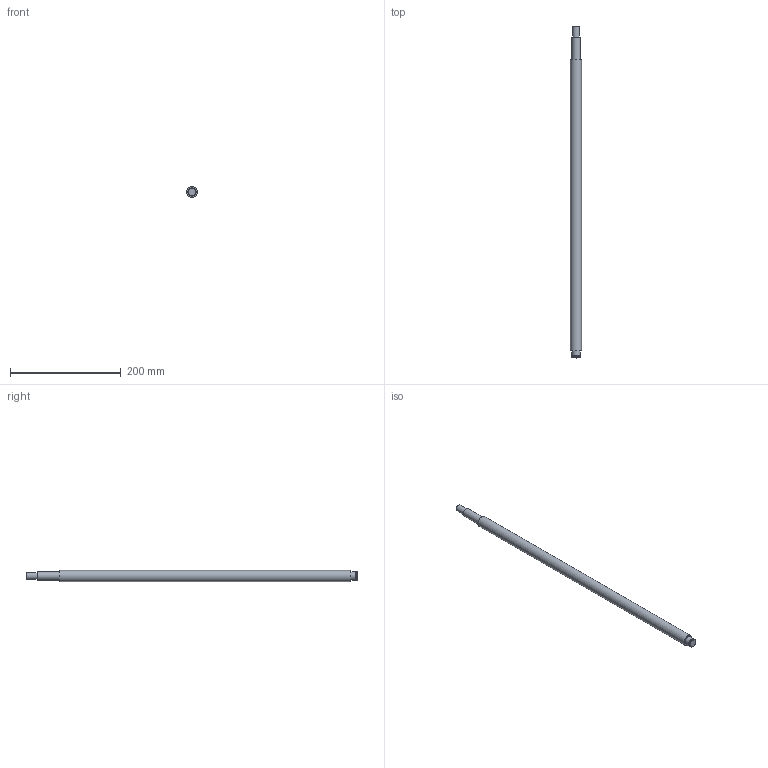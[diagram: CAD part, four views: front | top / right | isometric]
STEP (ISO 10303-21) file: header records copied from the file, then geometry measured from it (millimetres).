
FILE_DESCRIPTION(/* description */ (''),/* implementation_level */ '2;1');
FILE_NAME(/* name */ 'C:\Users\David\Desktop\stepFiles\Profilfuehrung\KUS2010x600.stp',/* time_stamp */ '2018-06-24T15:12:48+02:00',/* author */ ('David'),/* organization */ (''),/* preprocessor_version */ 'ST-DEVELOPER v17',/* originating_system */ 'Autodesk Inventor 2019',/* authorisation */ '');
FILE_SCHEMA (('AUTOMOTIVE_DESIGN { 1 0 10303 214 3 1 1 }'));
Length unit declared in the file: millimetre
Products named in the file (1): SFU2005xvaiabel
Bounding box: 20 x 600 x 20 mm (x, y, z)
Volume: 177160.9 mm3; surface area: 36996.4 mm2
Topology: 1 solids, 1 shells, 15 faces, 34 edges, 26 vertices
Faces by surface type: plane 7, cylinder 6, cone 2
Full cylindrical faces by diameter (mm): 12 x1, 14.3 x1, 15 x3, 20 x1
Entity records: 493 total; most frequent: DIRECTION 92, CARTESIAN_POINT 76, ORIENTED_EDGE 68, AXIS2_PLACEMENT_3D 42, EDGE_CURVE 34, CIRCLE 26, VERTEX_POINT 26, EDGE_LOOP 20
